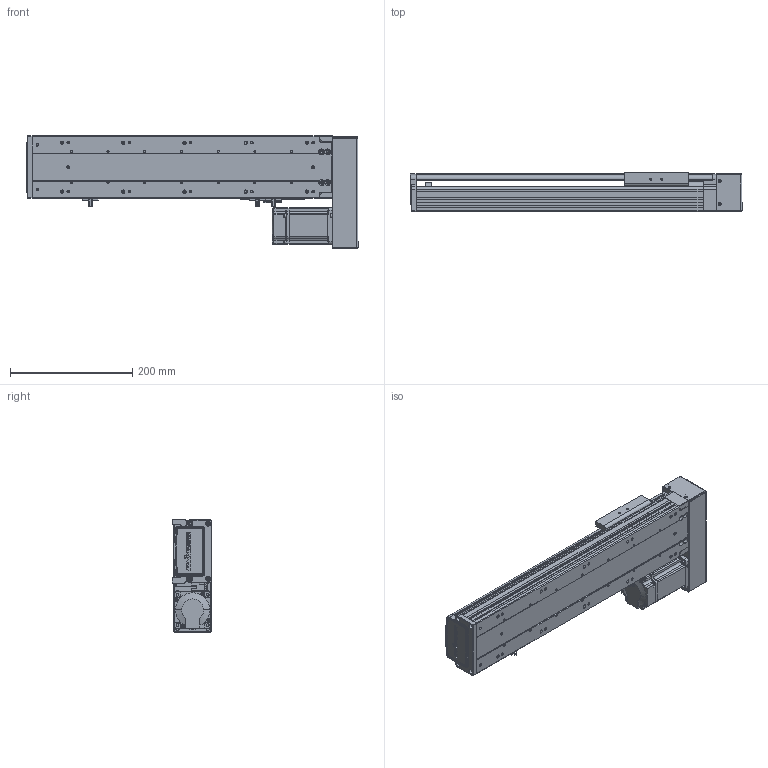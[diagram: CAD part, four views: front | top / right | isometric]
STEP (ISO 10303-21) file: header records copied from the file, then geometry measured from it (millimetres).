
FILE_DESCRIPTION (( 'STEP AP203' ), '1' );
FILE_NAME ('RY100S-L1620-300-RK(15双轨).SLDASM_300.step', '2021-02-20T08:47:27', ( '盈信电脑' ), ( '东莞市道滘镇水果街19号' ), 'SwSTEP 2.0', 'SolidWorks 2012', '' );
FILE_SCHEMA (( 'CONFIG_CONTROL_DESIGN' ));
Length unit declared in the file: millimetre
Products named in the file (15): RY100S-L1620-300-RK(15邧寢).SLDASM_300; RY100S铝滑块（15双轨单滑块）底组装导轨; 侂狟200W萇儂; RY100S转折电机安装板（15双轨）; 蚾饜极1^RY100S-L1620-300-RK(15邧寢); 1; RY100S左右折电机罩（15双轨）; 滅袉蝶18-24; RY100綴裔啣; RY100S转折电机端支撑座(15双轨); 覜茼ん672; 滅袉蝶18-10; RY100俋离覜茼え; RY100S-350-LK型材底座(低组15双轨)_300; RY100S-300-LK转折型材上盖(15双轨)
Assembly tree (16 placements, depth 4):
  RY100S-L1620-300-RK(15邧寢).SLDASM_300
    RY100S-350-LK型材底座(低组15双轨)_300
    RY100S-300-LK转折型材上盖(15双轨)
    覜茼ん672  x3
    滅袉蝶18-10
    RY100俋离覜茼え
    RY100S转折电机端支撑座(15双轨)
    滅袉蝶18-24
    RY100綴裔啣
    蚾饜极1^RY100S-L1620-300-RK(15邧寢)
      RY100S左右折电机罩（15双轨）
      RY100S转折电机安装板（15双轨）
      侂狟200W萇儂
        1
    RY100S铝滑块（15双轨单滑块）底组装导轨
Bounding box: 542.5 x 65 x 186.1 mm (x, y, z)
Volume: 1540441.3 mm3; surface area: 561386.4 mm2
Topology: 14 solids, 14 shells, 2159 faces, 5891 edges, 3806 vertices
Faces by surface type: plane 1185, cylinder 749, cone 137, bspline 88
Entity records: 69239 total; most frequent: CARTESIAN_POINT 17520, ORIENTED_EDGE 10626, DIRECTION 10088, EDGE_CURVE 5313, VERTEX_POINT 3486, LINE 3444, VECTOR 3444, AXIS2_PLACEMENT_3D 3322
